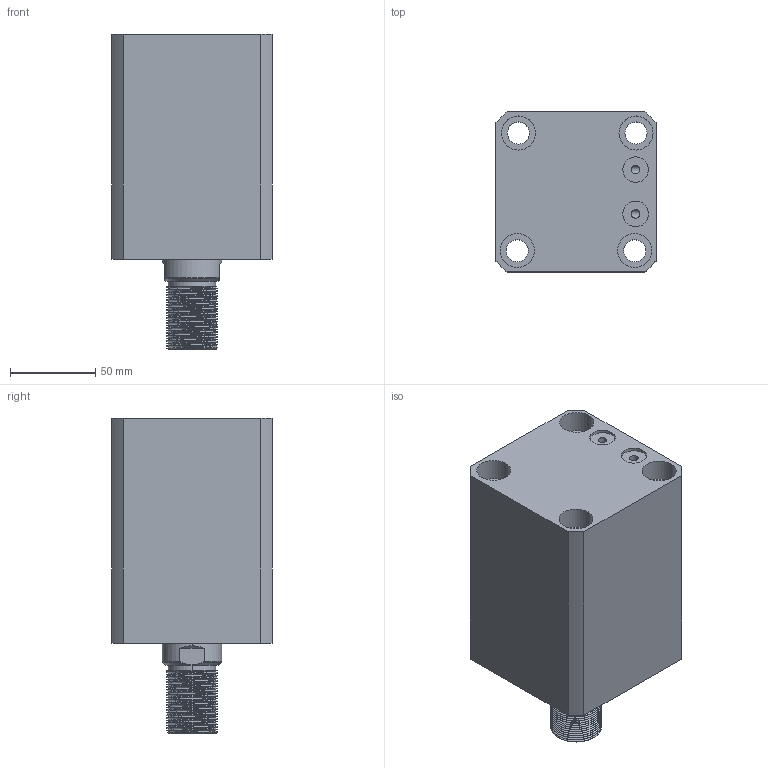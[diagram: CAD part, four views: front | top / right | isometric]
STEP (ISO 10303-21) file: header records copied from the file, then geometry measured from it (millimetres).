
FILE_DESCRIPTION (( 'STEP AP214' ), '1' );
FILE_NAME ('chtb-sdmb63x65w_asm.STEP', '2018-05-18T11:55:11', ( 'Windows' ), ( 'Microsoft' ), 'SwSTEP 2.0', 'SolidWorks 2015', '' );
FILE_SCHEMA (( 'AUTOMOTIVE_DESIGN' ));
Length unit declared in the file: millimetre
Products named in the file (4): CHTB-SDMB63X65NBT; CHTB63X65WHSG; CHTB-63QG; chtb-sdmb63x65w_asm
Assembly tree (3 placements, depth 2):
  chtb-sdmb63x65w_asm
    CHTB-63QG
    CHTB63X65WHSG
    CHTB-SDMB63X65NBT
Bounding box: 94 x 94 x 185 mm (x, y, z)
Volume: 963047 mm3; surface area: 162810.9 mm2
Topology: 3 solids, 3 shells, 218 faces, 628 edges, 427 vertices
Faces by surface type: cylinder 156, plane 33, bspline 14, cone 9, torus 6
Entity records: 22278 total; most frequent: CARTESIAN_POINT 17042, ORIENTED_EDGE 1248, DIRECTION 869, EDGE_CURVE 624, VERTEX_POINT 427, AXIS2_PLACEMENT_3D 339, EDGE_LOOP 251, ADVANCED_FACE 218
